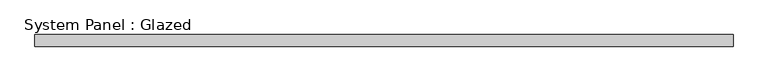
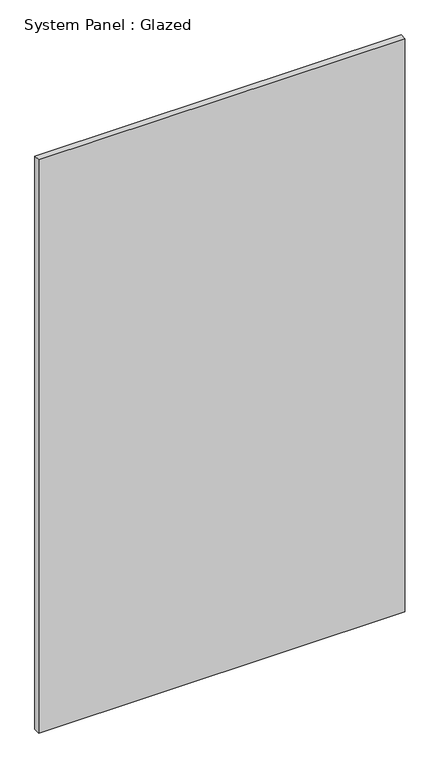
"""IFC4 building model written with IfcOpenShell, lengths in millimetres: plate geometry, System Panel : Glazed."""

from ifc_helpers import new_model, si_unit, origin, origin_with_axes, place, context, project, spatial, polyline, outline, extrude, source, transform, mapped, element, save


def system_panel_glazed_8b446c0b(model_context):
    return source(origin(), model_context, "Body", "SweptSolid", [
        extrude(outline(polyline([(725.0000001, 24.5), (-725.0000001, 24.5), (-725.0000001, 49.5), (725.0000001, 49.5), (725.0000001, 24.5)])), origin_with_axes(), (0.0, 0.0, 1.0), 2400.0),
    ])


if __name__ == "__main__":
    model = new_model("IFC4")
    model_context = context("Model", 3, world=origin())
    ifc_project = project(units=[si_unit("LENGTHUNIT", "METRE", prefix="MILLI")], contexts=[model_context])
    site = spatial("IfcSite", under=ifc_project)
    building = spatial("IfcBuilding", under=site)
    placement = place(None, origin())
    system_panel_glazed_shape = system_panel_glazed_8b446c0b(model_context)
    element("IfcPlate", 1, ObjectType="System Panel : Glazed", at=placement, inside=building, context=model_context, shape_type="MappedRepresentation", body=[
        mapped(system_panel_glazed_shape, transform((0.0, 0.0, 0.0), x_axis=(1.0, 0.0, 0.0), y_axis=(0.0, 1.0, 0.0), z_axis=(0.0, 0.0, 1.0))),
    ])
    save(model, "model.ifc")
